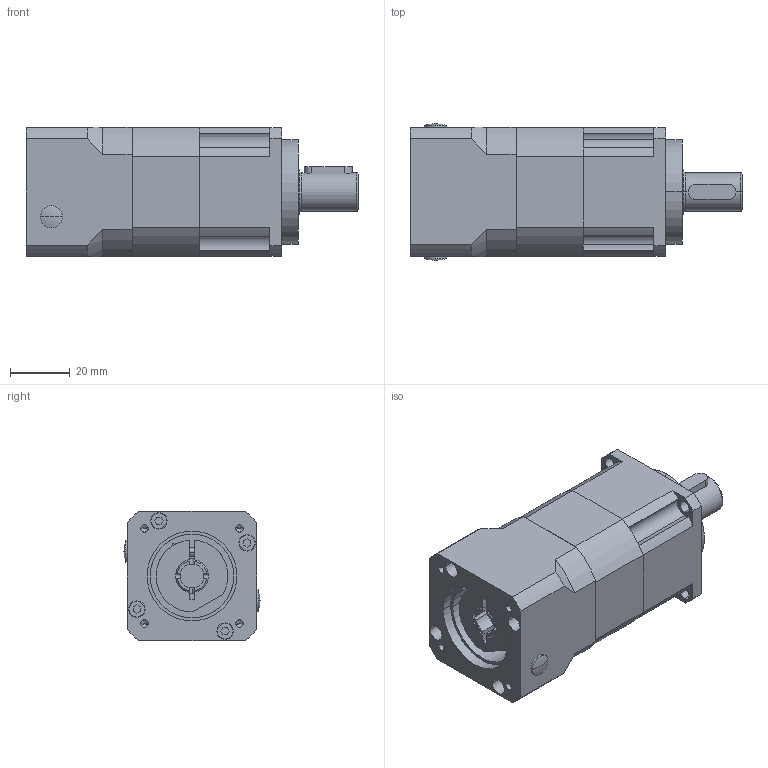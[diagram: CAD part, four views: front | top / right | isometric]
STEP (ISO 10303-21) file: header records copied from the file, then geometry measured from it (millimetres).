
FILE_DESCRIPTION (( 'STEP AP203' ), '1' );
FILE_NAME ('AB042-L2-8-30-45-M3.STEP', '2024-04-30T05:39:42', ( '' ), ( '' ), 'SwSTEP 2.0', 'SolidWorks 2015', '' );
FILE_SCHEMA (( 'CONFIG_CONTROL_DESIGN' ));
Length unit declared in the file: millimetre
Products named in the file (1): AB042-L2-8-30-45-M3
Bounding box: 111 x 45.6 x 43.3 mm (x, y, z)
Volume: 145914.5 mm3; surface area: 36317.2 mm2
Topology: 11 solids, 11 shells, 430 faces, 1076 edges, 680 vertices
Faces by surface type: plane 172, cylinder 142, cone 72, torus 28, bspline 16
Entity records: 13674 total; most frequent: CARTESIAN_POINT 3258, DIRECTION 2217, ORIENTED_EDGE 2124, EDGE_CURVE 1062, AXIS2_PLACEMENT_3D 859, VERTEX_POINT 680, VECTOR 499, LINE 499
